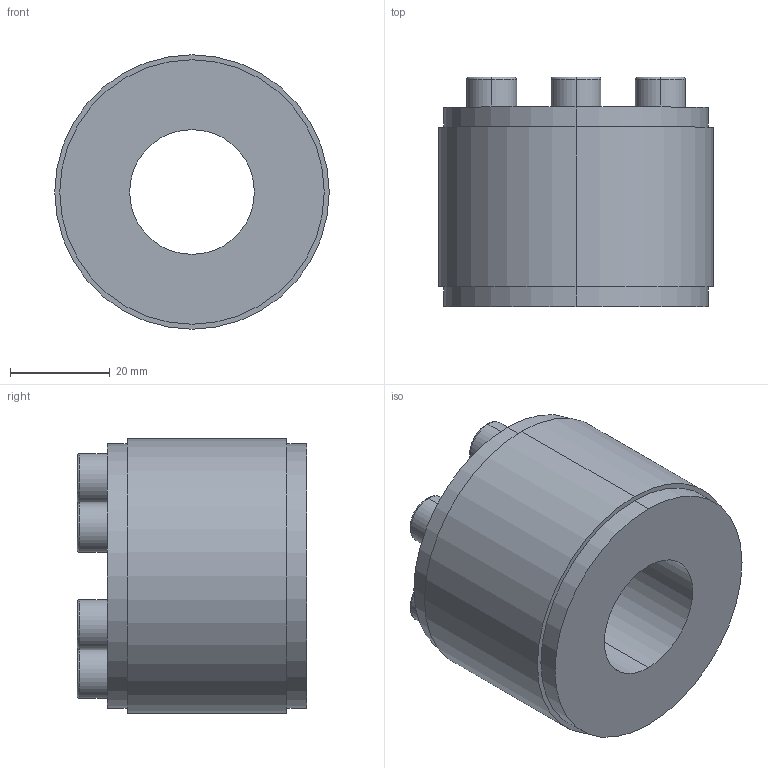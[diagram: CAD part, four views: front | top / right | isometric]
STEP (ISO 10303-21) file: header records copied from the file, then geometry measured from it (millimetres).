
FILE_DESCRIPTION (( 'STEP AP203' ), '1' );
FILE_NAME ('PL-D1 25-55.STEP', '2021-10-22T08:52:51', ( '' ), ( '' ), 'SwSTEP 2.0', 'SolidWorks 2018', '' );
FILE_SCHEMA (( 'CONFIG_CONTROL_DESIGN' ));
Length unit declared in the file: millimetre
Products named in the file (1): PL-D1 25-55
Bounding box: 55 x 46 x 55 mm (x, y, z)
Volume: 76468.9 mm3; surface area: 15174.4 mm2
Topology: 1 solids, 1 shells, 84 faces, 192 edges, 124 vertices
Faces by surface type: plane 52, cylinder 20, torus 12
Entity records: 2445 total; most frequent: DIRECTION 426, CARTESIAN_POINT 401, ORIENTED_EDGE 384, EDGE_CURVE 192, AXIS2_PLACEMENT_3D 149, VECTOR 128, LINE 128, VERTEX_POINT 124
